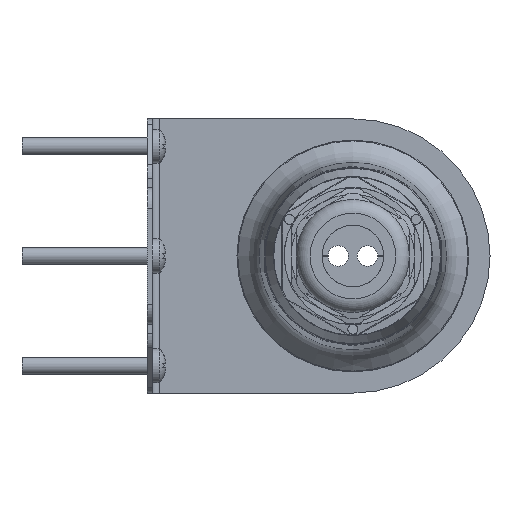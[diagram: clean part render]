
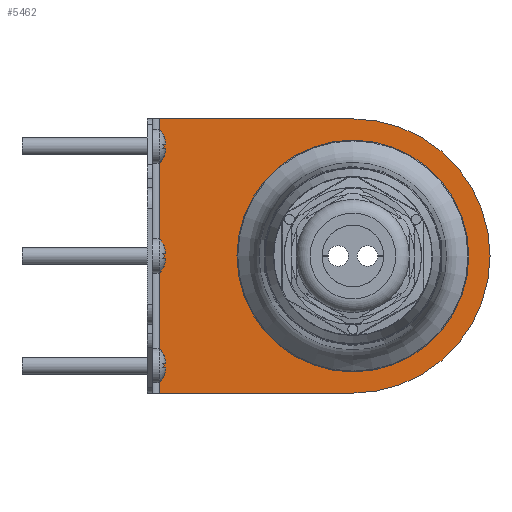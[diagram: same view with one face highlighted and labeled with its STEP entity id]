
A CAD part, front view. The second image highlights one B-rep face of the part: STEP entity #5462.
In plain terms, the highlighted planar face has unit normal (0, -1, 0).
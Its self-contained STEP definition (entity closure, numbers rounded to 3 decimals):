
#108=PLANE('',#5854);
#273=LINE('',#8742,#531);
#281=LINE('',#8766,#539);
#282=LINE('',#8771,#540);
#531=VECTOR('',#6664,1000.);
#539=VECTOR('',#6682,1000.);
#540=VECTOR('',#6689,1000.);
#1823=ORIENTED_EDGE('',*,*,#2726,.F.);
#1824=ORIENTED_EDGE('',*,*,#2713,.F.);
#1825=ORIENTED_EDGE('',*,*,#2727,.T.);
#1826=ORIENTED_EDGE('',*,*,#2725,.F.);
#1827=ORIENTED_EDGE('',*,*,#2728,.T.);
#2713=EDGE_CURVE('',#3229,#3230,#273,.T.);
#2725=EDGE_CURVE('',#3240,#3235,#281,.T.);
#2726=EDGE_CURVE('',#3241,#3241,#3486,.T.);
#2727=EDGE_CURVE('',#3229,#3235,#3487,.F.);
#2728=EDGE_CURVE('',#3240,#3230,#282,.T.);
#3229=VERTEX_POINT('',#8741);
#3230=VERTEX_POINT('',#8743);
#3235=VERTEX_POINT('',#8755);
#3240=VERTEX_POINT('',#8765);
#3241=VERTEX_POINT('',#8769);
#3486=CIRCLE('',#5855,25.35);
#3487=CIRCLE('',#5856,40.);
#3747=EDGE_LOOP('',(#1823));
#3748=EDGE_LOOP('',(#1824,#1825,#1826,#1827));
#4071=FACE_BOUND('',#3747,.T.);
#4072=FACE_BOUND('',#3748,.T.);
#5462=ADVANCED_FACE('',(#4071,#4072),#108,.F.);
#5854=AXIS2_PLACEMENT_3D('',#8767,#6683,#6684);
#5855=AXIS2_PLACEMENT_3D('',#8768,#6685,#6686);
#5856=AXIS2_PLACEMENT_3D('',#8770,#6687,#6688);
#6664=DIRECTION('',(-1.,0.,0.));
#6682=DIRECTION('',(1.,0.,0.));
#6683=DIRECTION('',(0.,1.,0.));
#6684=DIRECTION('',(0.,0.,1.));
#6685=DIRECTION('',(0.,-1.,0.));
#6686=DIRECTION('',(0.,0.,-1.));
#6687=DIRECTION('',(0.,1.,0.));
#6688=DIRECTION('',(0.,0.,1.));
#6689=DIRECTION('',(0.,0.,-1.));
#8741=CARTESIAN_POINT('',(60.,148.5,-40.));
#8742=CARTESIAN_POINT('',(110.,148.5,-40.));
#8743=CARTESIAN_POINT('',(3.5,148.5,-40.));
#8755=CARTESIAN_POINT('',(60.,148.5,40.));
#8765=CARTESIAN_POINT('',(3.5,148.5,40.));
#8766=CARTESIAN_POINT('',(110.,148.5,40.));
#8767=CARTESIAN_POINT('',(3.5,148.5,110.));
#8768=CARTESIAN_POINT('',(60.,148.5,0.));
#8769=CARTESIAN_POINT('',(60.,148.5,-25.35));
#8770=CARTESIAN_POINT('',(60.,148.5,0.));
#8771=CARTESIAN_POINT('',(3.5,148.5,110.));
